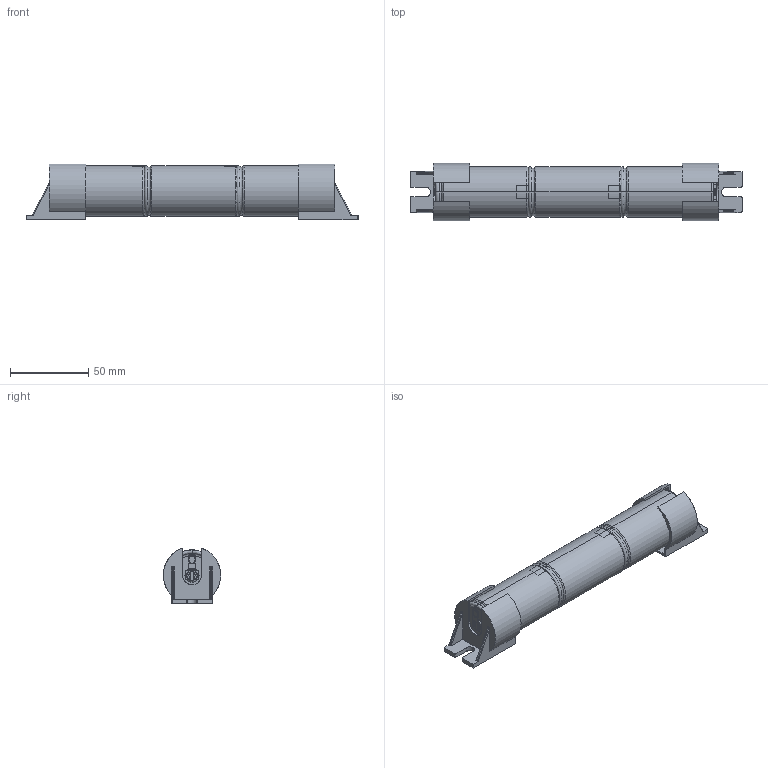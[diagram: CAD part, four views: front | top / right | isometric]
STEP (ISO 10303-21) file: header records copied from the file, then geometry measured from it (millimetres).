
FILE_DESCRIPTION((''),'2;1');
FILE_NAME('15012485Z_DMEC_89800084_3A-50','2020-02-04T10:59:59',('emanuel.wild'),(''),'CREO PARAMETRIC BY PTC INC, 2019164','CREO PARAMETRIC BY PTC INC, 2019164','');
FILE_SCHEMA(('CONFIG_CONTROL_DESIGN'));
Length unit declared in the file: millimetre
Products named in the file (1): 15012485Z_DMEC_89800084_3A-50
Bounding box: 211.59 x 36.6 x 35.57 mm (x, y, z)
Volume: 141528.3 mm3; surface area: 39692.3 mm2
Topology: 1 solids, 7 shells, 279 faces, 746 edges, 474 vertices
Faces by surface type: revolution 152, bspline 127
Entity records: 11219 total; most frequent: CARTESIAN_POINT 4599, ORIENTED_EDGE 1432, DIRECTION 1066, EDGE_CURVE 746, VERTEX_POINT 474, VECTOR 380, LINE 380, EDGE_LOOP 294
